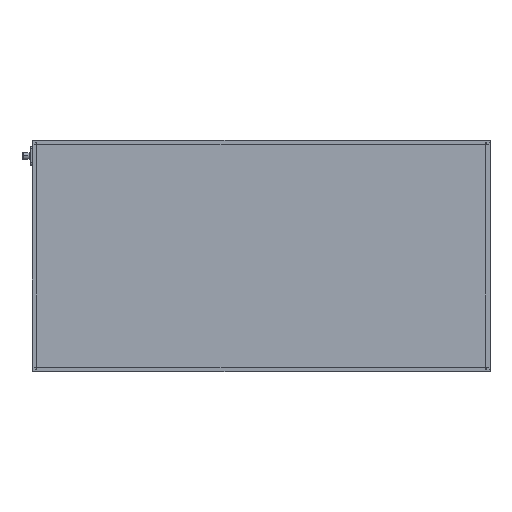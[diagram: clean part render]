
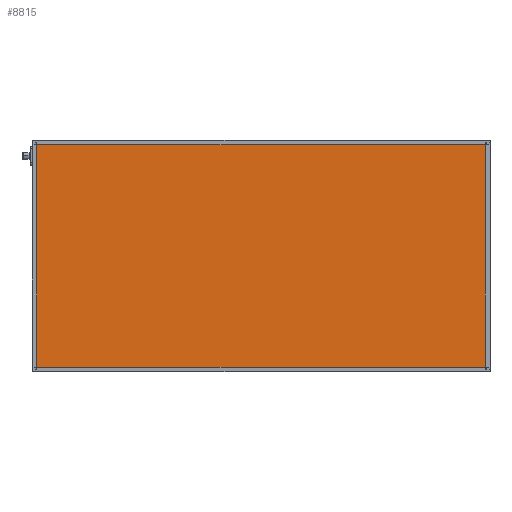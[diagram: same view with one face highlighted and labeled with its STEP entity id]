
A CAD part, top view. The second image highlights one B-rep face of the part: STEP entity #8815.
In plain terms, the highlighted planar face has unit normal (0, 0, 1).
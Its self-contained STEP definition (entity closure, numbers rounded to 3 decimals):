
#317 = LINE ( 'NONE', #6953, #11356 ) ;
#993 = EDGE_CURVE ( 'NONE', #10819, #7280, #13866, .T. ) ;
#1082 = EDGE_CURVE ( 'NONE', #7280, #13321, #317, .T. ) ;
#1148 = CARTESIAN_POINT ( 'NONE',  ( 796., 0., 41.85 ) ) ;
#1161 = VECTOR ( 'NONE', #9271, 1000. ) ;
#1187 = CARTESIAN_POINT ( 'NONE',  ( 4., 396., 41.85 ) ) ;
#2446 = VECTOR ( 'NONE', #16657, 1000. ) ;
#3150 = ORIENTED_EDGE ( 'NONE', *, *, #993, .T. ) ;
#3815 = ORIENTED_EDGE ( 'NONE', *, *, #1082, .T. ) ;
#4527 = PLANE ( 'NONE',  #15064 ) ;
#5747 = DIRECTION ( 'NONE',  ( 0., 0., -1. ) ) ;
#6060 = CARTESIAN_POINT ( 'NONE',  ( 796., 4., 41.85 ) ) ;
#6953 = CARTESIAN_POINT ( 'NONE',  ( 4., 0., 41.85 ) ) ;
#7280 = VERTEX_POINT ( 'NONE', #1187 ) ;
#8080 = ORIENTED_EDGE ( 'NONE', *, *, #15333, .T. ) ;
#8128 = VECTOR ( 'NONE', #15497, 1000. ) ;
#8270 = DIRECTION ( 'NONE',  ( -1., 0., 0. ) ) ;
#8742 = CARTESIAN_POINT ( 'NONE',  ( 796., 396., 41.85 ) ) ;
#8815 = ADVANCED_FACE ( 'NONE', ( #10806 ), #4527, .F. ) ;
#8902 = EDGE_LOOP ( 'NONE', ( #8080, #3150, #3815, #15565 ) ) ;
#8928 = EDGE_CURVE ( 'NONE', #13321, #11941, #9931, .T. ) ;
#9271 = DIRECTION ( 'NONE',  ( 0., 1., 0. ) ) ;
#9931 = LINE ( 'NONE', #10192, #8128 ) ;
#10192 = CARTESIAN_POINT ( 'NONE',  ( 0., 4., 41.85 ) ) ;
#10493 = LINE ( 'NONE', #1148, #1161 ) ;
#10806 = FACE_OUTER_BOUND ( 'NONE', #8902, .T. ) ;
#10819 = VERTEX_POINT ( 'NONE', #8742 ) ;
#11356 = VECTOR ( 'NONE', #12261, 1000. ) ;
#11941 = VERTEX_POINT ( 'NONE', #6060 ) ;
#12261 = DIRECTION ( 'NONE',  ( 0., -1., 0. ) ) ;
#12912 = CARTESIAN_POINT ( 'NONE',  ( 0., 396., 41.85 ) ) ;
#13321 = VERTEX_POINT ( 'NONE', #16142 ) ;
#13496 = CARTESIAN_POINT ( 'NONE',  ( 0., 0., 41.85 ) ) ;
#13866 = LINE ( 'NONE', #12912, #2446 ) ;
#15064 = AXIS2_PLACEMENT_3D ( 'NONE', #13496, #5747, #8270 ) ;
#15333 = EDGE_CURVE ( 'NONE', #11941, #10819, #10493, .T. ) ;
#15497 = DIRECTION ( 'NONE',  ( 1., 0., 0. ) ) ;
#15565 = ORIENTED_EDGE ( 'NONE', *, *, #8928, .T. ) ;
#16142 = CARTESIAN_POINT ( 'NONE',  ( 4., 4., 41.85 ) ) ;
#16657 = DIRECTION ( 'NONE',  ( -1., 0., 0. ) ) ;
